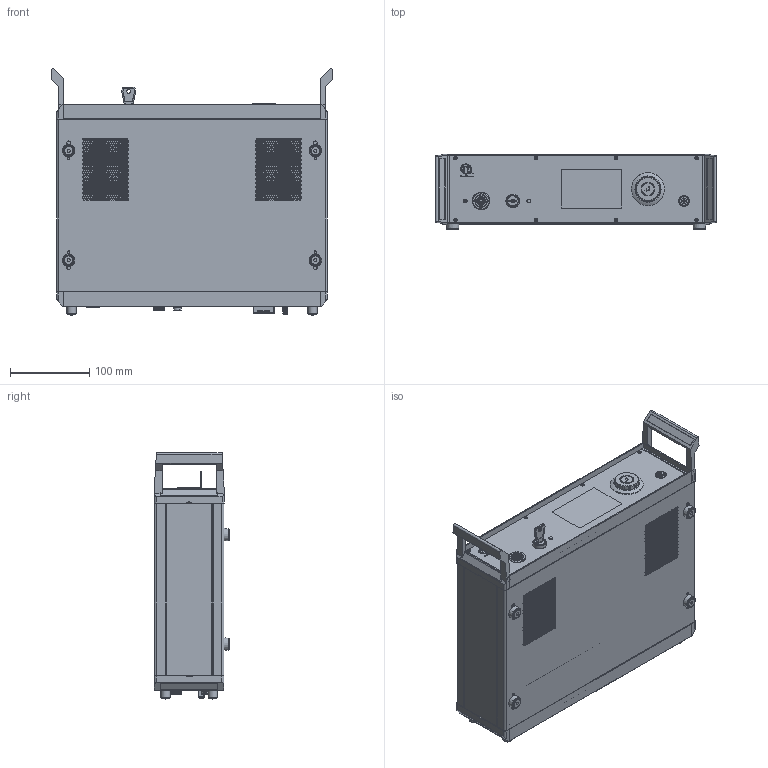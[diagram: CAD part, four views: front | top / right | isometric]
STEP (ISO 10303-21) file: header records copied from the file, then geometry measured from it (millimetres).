
FILE_DESCRIPTION (( 'STEP AP203' ), '1' );
FILE_NAME ('PQ.078.2200.2001.12_PDL_M1.step', '2026-06-01T09:20:56', ( '' ), ( '' ), 'SwSTEP 2.0', 'SolidWorks 2025', '' );
FILE_SCHEMA (( 'CONFIG_CONTROL_DESIGN' ));
Products named in the file (1): PQ.078.2200.2001.12_PDL_M1
Bounding box: 355.42 x 95.3 x 311.45 mm (x, y, z)
Surface area: 545213.6 mm2 (no closed solid volume)
Topology: 0 solids, 248 shells, 2895 faces, 13547 edges, 10792 vertices
Faces by surface type: cylinder 1643, plane 1032, bspline 113, cone 70, sphere 27, torus 10
Full cylindrical faces by diameter (mm): 1 x11, 1.01 x1, 1.6 x2, 1.98 x2, 2 x1321, 2.2 x1, 2.22 x1, 3.1 x1, 3.4 x4, 4 x1, 4.5 x14, 4.61 x1, 4.8 x1, 4.83 x1, 5 x5, 5.35 x1, 5.451 x1, 5.7 x4, 6 x3, 6.3 x2, 6.4 x1, 6.5 x4, 7.4 x1, 8 x3, 9.4 x1, 9.6 x1, 9.67 x1, 10.5 x2, 10.7 x1, 11.4 x1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
Entity records: 146037 total; most frequent: CARTESIAN_POINT 44429, DIRECTION 19766, ORIENTED_EDGE 16267, EDGE_CURVE 11991, VERTEX_POINT 10732, AXIS2_PLACEMENT_3D 7388, EDGE_LOOP 6211, VECTOR 4990
